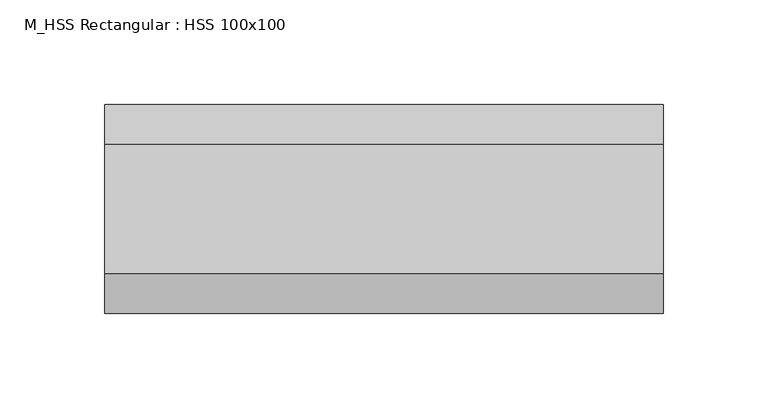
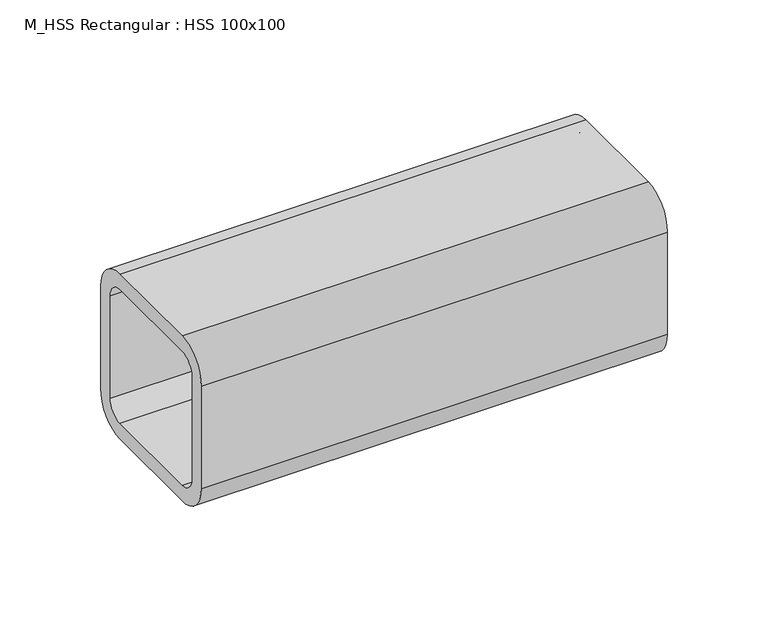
"""IFC4 building model written with IfcOpenShell, lengths in millimetres: beam geometry, M_HSS Rectangular : HSS 100x100."""

from ifc_helpers import new_model, si_unit, point, frame, frame_2d, origin, place, context, project, spatial, polyline, circle_curve, trimmed, segment, composite_curve, outline, extrude, source, transform, mapped, element, save


def m_hss_rectangular_hss_100x100_2c025c62(model_context):
    return source(origin(), model_context, "Body", "SweptSolid", [
        extrude(outline(composite_curve([segment(polyline([(50.0, 30.94), (50.0, -30.94)]), True, "CONTINUOUS"), segment(trimmed(circle_curve(frame_2d((30.94, -30.94)), 19.06), [point((50.0, -30.94))], [point((30.94, -50.0))], False, "CARTESIAN"), True, "CONTINUOUS"), segment(polyline([(30.94, -50.0), (-30.94, -50.0)]), True, "CONTINUOUS"), segment(trimmed(circle_curve(frame_2d((-30.94, -30.94)), 19.06), [point((-30.94, -50.0))], [point((-50.0, -30.94))], False, "CARTESIAN"), True, "CONTINUOUS"), segment(polyline([(-50.0, -30.94), (-50.0, 30.94)]), True, "CONTINUOUS"), segment(trimmed(circle_curve(frame_2d((-30.94, 30.94)), 19.06), [point((-50.0, 30.94))], [point((-30.94, 50.0))], False, "CARTESIAN"), True, "CONTINUOUS"), segment(polyline([(-30.94, 50.0), (30.94, 50.0)]), True, "CONTINUOUS"), segment(trimmed(circle_curve(frame_2d((30.94, 30.94)), 19.06), [point((30.94, 50.0))], [point((50.0, 30.94))], False, "CARTESIAN"), True, "CONTINUOUS")], self_intersect=False), holes=[composite_curve([segment(trimmed(circle_curve(frame_2d((-30.94, 30.94)), 9.53), [point((-30.94, 40.47))], [point((-40.47, 30.94))], True, "CARTESIAN"), True, "CONTINUOUS"), segment(polyline([(-40.47, 30.94), (-40.47, -30.94)]), True, "CONTINUOUS"), segment(trimmed(circle_curve(frame_2d((-30.94, -30.94)), 9.53), [point((-40.47, -30.94))], [point((-30.94, -40.47))], True, "CARTESIAN"), True, "CONTINUOUS"), segment(polyline([(-30.94, -40.47), (30.94, -40.47)]), True, "CONTINUOUS"), segment(trimmed(circle_curve(frame_2d((30.94, -30.94)), 9.53), [point((30.94, -40.47))], [point((40.47, -30.94))], True, "CARTESIAN"), True, "CONTINUOUS"), segment(polyline([(40.47, -30.94), (40.47, 30.94)]), True, "CONTINUOUS"), segment(trimmed(circle_curve(frame_2d((30.94, 30.94)), 9.53), [point((40.47, 30.94))], [point((30.94, 40.47))], True, "CARTESIAN"), True, "CONTINUOUS"), segment(polyline([(30.94, 40.47), (-30.94, 40.47)]), True, "CONTINUOUS")], self_intersect=False)]), frame((-102.2, 0.0, 0.0), z_axis=(1.0, 0.0, 0.0), x_axis=(0.0, 1.0, 0.0)), (0.0, 0.0, 1.0), 267.2),
    ])


if __name__ == "__main__":
    model = new_model("IFC4")
    model_context = context("Model", 3, world=origin())
    ifc_project = project(units=[si_unit("LENGTHUNIT", "METRE", prefix="MILLI")], contexts=[model_context])
    site = spatial("IfcSite", under=ifc_project)
    building = spatial("IfcBuilding", under=site)
    placement = place(None, origin())
    m_hss_rectangular_hss_100x100_shape = m_hss_rectangular_hss_100x100_2c025c62(model_context)
    element("IfcBeam", 1, ObjectType="M_HSS Rectangular : HSS 100x100", at=placement, inside=building, context=model_context, shape_type="MappedRepresentation", body=[
        mapped(m_hss_rectangular_hss_100x100_shape, transform((0.0, 0.0, 0.0), x_axis=(1.0, 0.0, 0.0), y_axis=(0.0, 1.0, 0.0), z_axis=(0.0, 0.0, 1.0))),
    ])
    save(model, "model.ifc")
